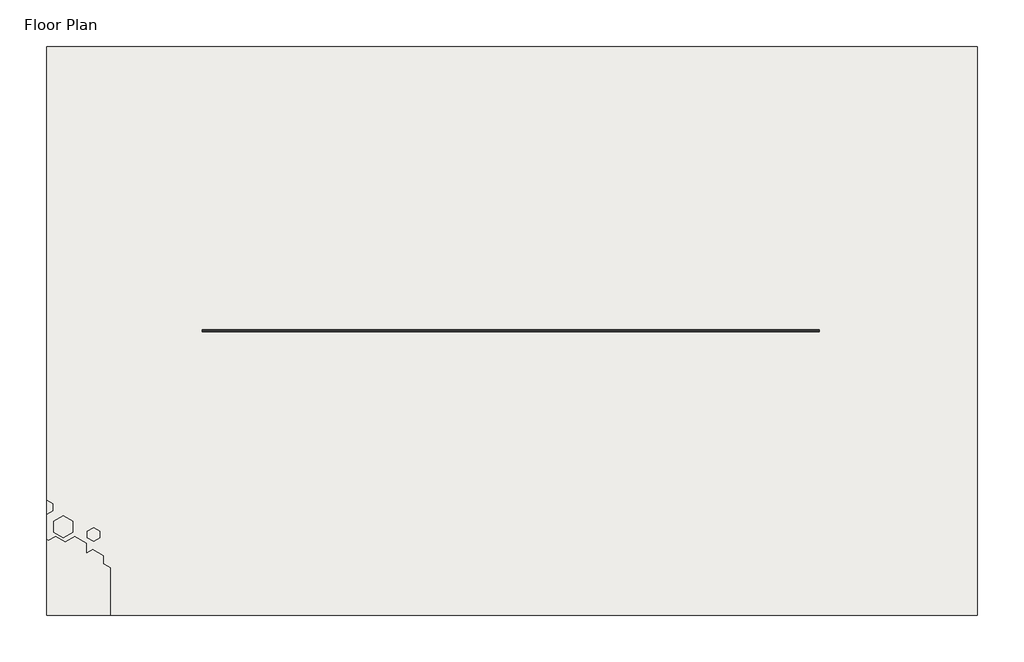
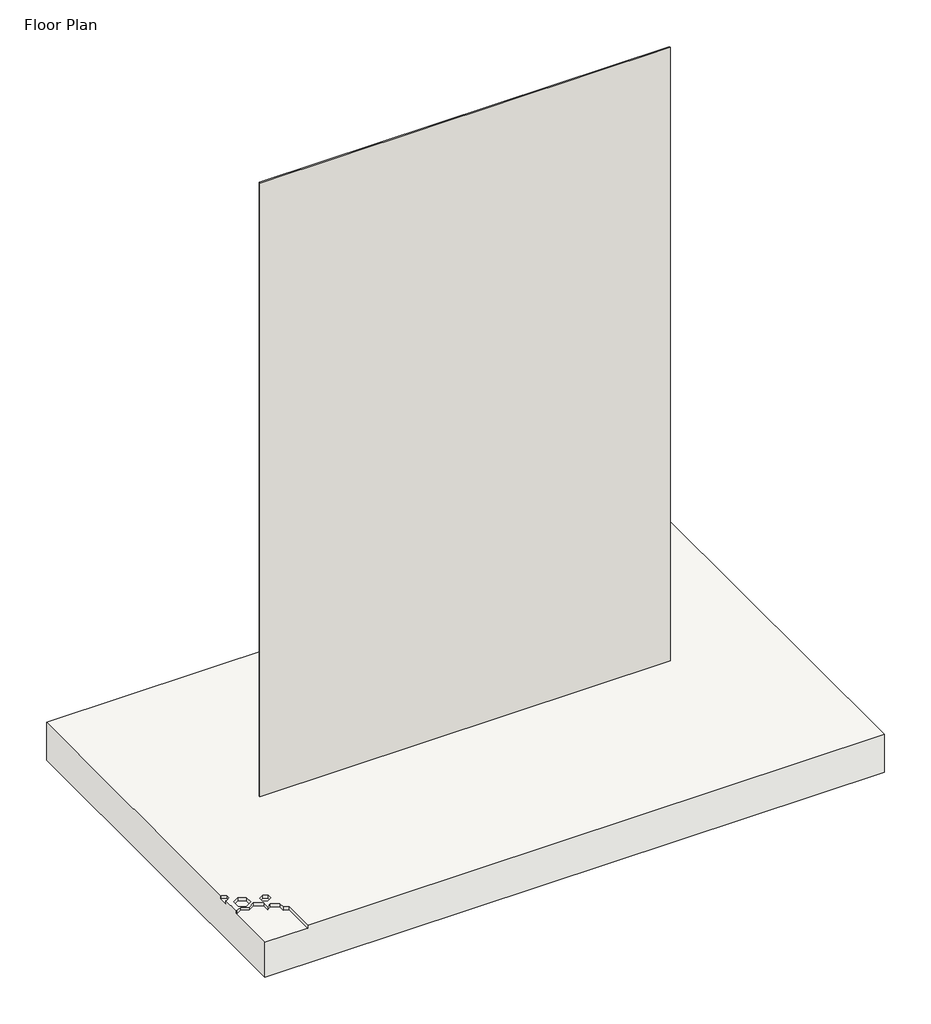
# One storey, incomplete: 1 slab, 1 wall.
"""IFC4 building model written with IfcOpenShell, lengths in millimetres."""

from ifc_helpers import new_model, si_unit, origin, origin_with_axes, place, context, project, spatial, polyline, outline, extrude, faceted_brep, element, save

model = new_model("IFC4")

# Units and contexts
model_context = context("Model", 3, world=origin())
ifc_project = project(units=[si_unit("LENGTHUNIT", "METRE", prefix="MILLI")], contexts=[model_context])

# Site, building, storey
site = spatial("IfcSite", under=ifc_project)
building = spatial("IfcBuilding", under=site)
storey = spatial("IfcBuildingStorey", under=building, Name="Floor Plan", Elevation=0.0)

# Slab
placement = place(None, origin())
element("IfcSlab", 1, ObjectType="Floor 1", at=placement, inside=storey, context=model_context, shape_type="Brep", body=[
    faceted_brep([(245629.564463, -1405.268292, -300.0), (241029.564463, -1405.268292, -300.0), (241029.564463, 1405.268292, -300.0), (245629.564463, 1405.268292, -300.0), (245629.564463, 1405.268292, 0.0), (241029.564463, 1405.268292, 0.0), (241029.564463, -838.8208533, 0.0), (241033.1211266, -836.7674126, 0.0), (241063.8301292, -854.4972635, 0.0), (241063.8301292, -887.6294851, 0.0), (241033.1211266, -905.3593361, 0.0), (241029.564463, -903.3058954, 0.0), (241029.564463, -1029.5470898, 0.0), (241039.1972272, -1035.1085689, 0.0), (241075.3908374, -1014.2121783, 0.0), (241122.4046401, -1041.3556099, 0.0), (241168.4091656, -1014.7948848, 0.0), (241227.6401701, -1048.9919211, 0.0), (241227.6401701, -1095.6301509, 0.0), (241256.9088101, -1078.7318937, 0.0), (241311.5578344, -1110.2835225, 0.0), (241311.5578344, -1149.3943664, 0.0), (241346.1988505, -1169.3943664, 0.0), (241346.1988505, -1405.268292, 0.0), (245629.564463, -1405.268292, 0.0), (241112.4226577, -913.8797767, 0.0), (241158.7748127, -940.6412058, 0.0), (241158.7748127, -995.8128392, 0.0), (241112.4226577, -1022.5742684, 0.0), (241066.0705027, -995.8128392, 0.0), (241066.0705027, -940.6412058, 0.0), (241262.5290945, -971.7658751, 0.0), (241293.3339718, -989.5510793, 0.0), (241293.3339718, -1022.1588741, 0.0), (241262.5290945, -1039.9440783, 0.0), (241231.7242172, -1022.1588741, 0.0), (241231.7242172, -989.5510793, 0.0), (241346.1988505, -1405.268292, -25.0), (241029.564463, -1405.268292, -25.0), (241029.564463, -1029.5470898, -25.0), (241029.564463, -903.3058954, -25.0), (241029.564463, -838.8208533, -25.0), (241346.1988505, -1169.3943664, -25.0), (241311.5578344, -1149.3943664, -25.0), (241311.5578344, -1110.2835225, -25.0), (241256.9088101, -1078.7318937, -25.0), (241227.6401701, -1095.6301509, -25.0), (241227.6401701, -1048.9919211, -25.0), (241168.4091656, -1014.7948848, -25.0), (241122.4046401, -1041.3556099, -25.0), (241075.3908374, -1014.2121783, -25.0), (241039.1972272, -1035.1085689, -25.0), (241158.7748127, -940.6412058, -25.0), (241112.4226577, -913.8797767, -25.0), (241066.0705027, -940.6412058, -25.0), (241066.0705027, -995.8128392, -25.0), (241112.4226577, -1022.5742684, -25.0), (241158.7748127, -995.8128392, -25.0), (241063.8301292, -854.4972635, -25.0), (241033.1211266, -836.7674126, -25.0), (241033.1211266, -905.3593361, -25.0), (241063.8301292, -887.6294851, -25.0), (241293.3339718, -989.5510793, -25.0), (241262.5290945, -971.7658751, -25.0), (241231.7242172, -989.5510793, -25.0), (241231.7242172, -1022.1588741, -25.0), (241262.5290945, -1039.9440783, -25.0), (241293.3339718, -1022.1588741, -25.0)], [[[0, 1, 2, 3]], [[4, 5, 6, 7, 8, 9, 10, 11, 12, 13, 14, 15, 16, 17, 18, 19, 20, 21, 22, 23, 24], [25, 26, 27, 28, 29, 30], [31, 32, 33, 34, 35, 36]], [[1, 0, 24, 23, 37, 38]], [[2, 1, 38, 39, 12, 11, 40, 41, 6, 5]], [[3, 2, 5, 4]], [[42, 43, 44, 45, 46, 47, 48, 49, 50, 51, 39, 38, 37]], [[52, 53, 54, 55, 56, 57]], [[58, 59, 41, 40, 60, 61]], [[62, 63, 64, 65, 66, 67]], [[42, 37, 23, 22]], [[43, 42, 22, 21]], [[44, 43, 21, 20]], [[45, 44, 20, 19]], [[46, 45, 19, 18]], [[47, 46, 18, 17]], [[48, 47, 17, 16]], [[49, 48, 16, 15]], [[50, 49, 15, 14]], [[51, 50, 14, 13]], [[39, 51, 13, 12]], [[53, 52, 26, 25]], [[54, 53, 25, 30]], [[55, 54, 30, 29]], [[56, 55, 29, 28]], [[57, 56, 28, 27]], [[52, 57, 27, 26]], [[59, 58, 8, 7]], [[41, 59, 7, 6]], [[60, 40, 11, 10]], [[61, 60, 10, 9]], [[58, 61, 9, 8]], [[63, 62, 32, 31]], [[64, 63, 31, 36]], [[65, 64, 36, 35]], [[66, 65, 35, 34]], [[67, 66, 34, 33]], [[62, 67, 33, 32]], [[0, 3, 4, 24]]]),
])

# Wall
element("IfcWall", 2, ObjectType="Cemintel Headland Weatherboard 10mm x 170mm x 4200mm", at=placement, inside=storey, context=model_context, shape_type="SweptSolid", body=[
    extrude(outline(polyline([(244848.0, -4.5), (241800.0, -4.5), (241800.0, 5.5), (244848.0, 5.5), (244848.0, -4.5)])), origin_with_axes(), (0.0, 0.0, 1.0), 4820.0),
])

save(model, "model.ifc")
